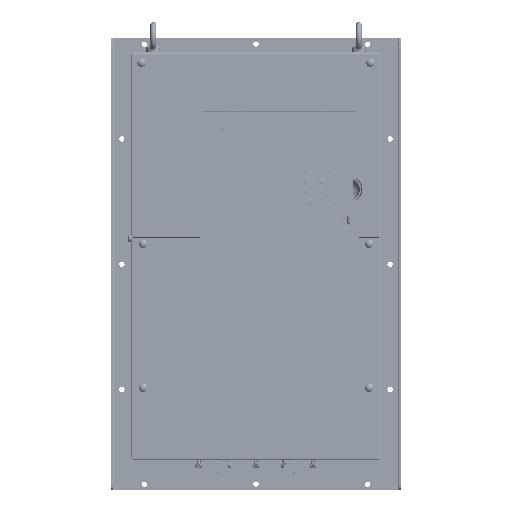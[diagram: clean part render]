
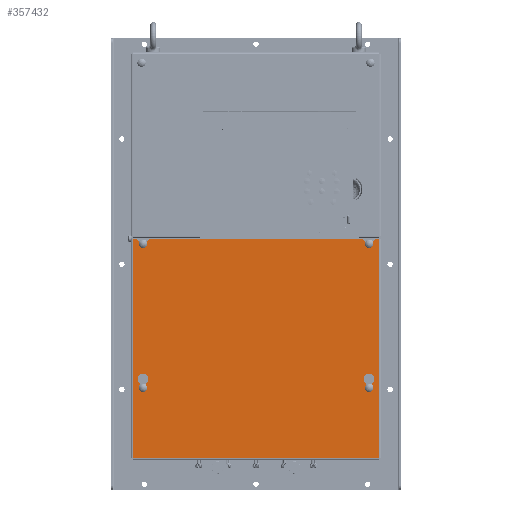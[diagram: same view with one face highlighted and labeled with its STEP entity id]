
A CAD part, top view. The second image highlights one B-rep face of the part: STEP entity #357432.
In plain terms, the highlighted planar face has unit normal (0, 0, 1) as drawn and (0, 1, 0) by its records, which use the part's own axes.
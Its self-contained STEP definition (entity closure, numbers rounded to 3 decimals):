
#356525=CARTESIAN_POINT('',(126.4,0.,-79.5));
#356526=DIRECTION('',(0.,1.,0.));
#356527=DIRECTION('',(-1.,0.,0.));
#356528=AXIS2_PLACEMENT_3D('',#356525,#356526,#356527);
#356530=DIRECTION('',(0.,0.,1.));
#356531=VECTOR('',#356530,4.804);
#356532=CARTESIAN_POINT('',(129.4,0.,-84.304));
#356533=LINE('',#356532,#356531);
#356534=CARTESIAN_POINT('',(126.4,0.,-89.5));
#356535=DIRECTION('',(0.,1.,0.));
#356536=DIRECTION('',(0.5,0.,0.866));
#356537=AXIS2_PLACEMENT_3D('',#356534,#356535,#356536);
#356539=DIRECTION('',(0.,0.,-1.));
#356540=VECTOR('',#356539,4.804);
#356541=CARTESIAN_POINT('',(123.4,0.,-79.5));
#356542=LINE('',#356541,#356540);
#356543=CARTESIAN_POINT('',(-126.4,0.,-79.5));
#356544=DIRECTION('',(0.,1.,0.));
#356545=DIRECTION('',(-1.,0.,0.));
#356546=AXIS2_PLACEMENT_3D('',#356543,#356544,#356545);
#356548=DIRECTION('',(0.,0.,1.));
#356549=VECTOR('',#356548,4.804);
#356550=CARTESIAN_POINT('',(-123.4,0.,-84.304));
#356551=LINE('',#356550,#356549);
#356552=CARTESIAN_POINT('',(-126.4,0.,-89.5));
#356553=DIRECTION('',(0.,1.,0.));
#356554=DIRECTION('',(0.5,0.,0.866));
#356555=AXIS2_PLACEMENT_3D('',#356552,#356553,#356554);
#356557=DIRECTION('',(0.,0.,-1.));
#356558=VECTOR('',#356557,4.804);
#356559=CARTESIAN_POINT('',(-129.4,0.,-79.5));
#356560=LINE('',#356559,#356558);
#356561=DIRECTION('',(-0.707,0.,-0.707));
#356562=VECTOR('',#356561,5.657);
#356563=CARTESIAN_POINT('',(123.5,0.,-241.7));
#356564=LINE('',#356563,#356562);
#356565=DIRECTION('',(0.,0.,1.));
#356566=VECTOR('',#356565,1.1);
#356567=CARTESIAN_POINT('',(123.5,0.,-241.7));
#356568=LINE('',#356567,#356566);
#356569=CARTESIAN_POINT('',(126.5,0.,-240.6));
#356570=DIRECTION('',(0.,1.,0.));
#356571=DIRECTION('',(-1.,0.,0.));
#356572=AXIS2_PLACEMENT_3D('',#356569,#356570,#356571);
#356574=DIRECTION('',(0.,0.,1.));
#356575=VECTOR('',#356574,1.1);
#356576=CARTESIAN_POINT('',(129.5,0.,-241.7));
#356577=LINE('',#356576,#356575);
#356578=DIRECTION('',(-0.707,0.,0.707));
#356579=VECTOR('',#356578,5.657);
#356580=CARTESIAN_POINT('',(133.5,0.,-245.7));
#356581=LINE('',#356580,#356579);
#356582=DIRECTION('',(-1.,0.,0.));
#356583=VECTOR('',#356582,4.5);
#356584=CARTESIAN_POINT('',(138.,0.,-245.7));
#356585=LINE('',#356584,#356583);
#356586=DIRECTION('',(-1.,0.,0.));
#356587=VECTOR('',#356586,4.5);
#356588=CARTESIAN_POINT('',(-133.5,0.,-245.7));
#356589=LINE('',#356588,#356587);
#356590=DIRECTION('',(-0.707,0.,-0.707));
#356591=VECTOR('',#356590,5.657);
#356592=CARTESIAN_POINT('',(-129.5,0.,-241.7));
#356593=LINE('',#356592,#356591);
#356594=DIRECTION('',(0.,0.,1.));
#356595=VECTOR('',#356594,1.1);
#356596=CARTESIAN_POINT('',(-129.5,0.,-241.7));
#356597=LINE('',#356596,#356595);
#356598=CARTESIAN_POINT('',(-126.5,0.,-240.6));
#356599=DIRECTION('',(0.,1.,0.));
#356600=DIRECTION('',(-1.,0.,0.));
#356601=AXIS2_PLACEMENT_3D('',#356598,#356599,#356600);
#356603=DIRECTION('',(0.,0.,1.));
#356604=VECTOR('',#356603,1.1);
#356605=CARTESIAN_POINT('',(-123.5,0.,-241.7));
#356606=LINE('',#356605,#356604);
#356607=DIRECTION('',(-0.707,0.,0.707));
#356608=VECTOR('',#356607,5.657);
#356609=CARTESIAN_POINT('',(-119.5,0.,-245.7));
#356610=LINE('',#356609,#356608);
#356611=DIRECTION('',(-1.,0.,0.));
#356612=VECTOR('',#356611,239.);
#356613=CARTESIAN_POINT('',(119.5,0.,-245.7));
#356614=LINE('',#356613,#356612);
#357054=DIRECTION('',(0.,0.,1.));
#357055=VECTOR('',#357054,245.2);
#357056=CARTESIAN_POINT('',(-138.,0.,-245.7));
#357057=LINE('',#357056,#357055);
#357105=DIRECTION('',(1.,0.,0.));
#357106=VECTOR('',#357105,276.);
#357107=CARTESIAN_POINT('',(-138.,0.,-0.5));
#357108=LINE('',#357107,#357106);
#357147=DIRECTION('',(0.,0.,-1.));
#357148=VECTOR('',#357147,245.2);
#357149=CARTESIAN_POINT('',(138.,0.,-0.5));
#357150=LINE('',#357149,#357148);
#357201=CARTESIAN_POINT('',(123.4,0.,-79.5));
#357202=CARTESIAN_POINT('',(129.4,0.,-79.5));
#357203=VERTEX_POINT('',#357201);
#357204=VERTEX_POINT('',#357202);
#357205=CARTESIAN_POINT('',(123.4,0.,-84.304));
#357206=VERTEX_POINT('',#357205);
#357207=CARTESIAN_POINT('',(129.4,0.,-84.304));
#357208=VERTEX_POINT('',#357207);
#357209=CARTESIAN_POINT('',(-129.4,0.,-79.5));
#357210=CARTESIAN_POINT('',(-123.4,0.,-79.5));
#357211=VERTEX_POINT('',#357209);
#357212=VERTEX_POINT('',#357210);
#357213=CARTESIAN_POINT('',(-129.4,0.,-84.304));
#357214=VERTEX_POINT('',#357213);
#357215=CARTESIAN_POINT('',(-123.4,0.,-84.304));
#357216=VERTEX_POINT('',#357215);
#357233=CARTESIAN_POINT('',(123.5,0.,-240.6));
#357234=CARTESIAN_POINT('',(129.5,0.,-240.6));
#357235=VERTEX_POINT('',#357233);
#357236=VERTEX_POINT('',#357234);
#357237=CARTESIAN_POINT('',(-129.5,0.,-240.6));
#357238=CARTESIAN_POINT('',(-123.5,0.,-240.6));
#357239=VERTEX_POINT('',#357237);
#357240=VERTEX_POINT('',#357238);
#357249=CARTESIAN_POINT('',(123.5,0.,-241.7));
#357250=CARTESIAN_POINT('',(119.5,0.,-245.7));
#357251=VERTEX_POINT('',#357249);
#357252=VERTEX_POINT('',#357250);
#357257=CARTESIAN_POINT('',(133.5,0.,-245.7));
#357258=CARTESIAN_POINT('',(129.5,0.,-241.7));
#357259=VERTEX_POINT('',#357257);
#357260=VERTEX_POINT('',#357258);
#357265=CARTESIAN_POINT('',(-119.5,0.,-245.7));
#357266=CARTESIAN_POINT('',(-123.5,0.,-241.7));
#357267=VERTEX_POINT('',#357265);
#357268=VERTEX_POINT('',#357266);
#357273=CARTESIAN_POINT('',(-129.5,0.,-241.7));
#357274=CARTESIAN_POINT('',(-133.5,0.,-245.7));
#357275=VERTEX_POINT('',#357273);
#357276=VERTEX_POINT('',#357274);
#357281=CARTESIAN_POINT('',(138.,0.,-245.7));
#357282=VERTEX_POINT('',#357281);
#357283=CARTESIAN_POINT('',(-138.,0.,-245.7));
#357284=VERTEX_POINT('',#357283);
#357303=CARTESIAN_POINT('',(138.,0.,-0.5));
#357304=VERTEX_POINT('',#357303);
#357319=CARTESIAN_POINT('',(-138.,0.,-0.5));
#357320=VERTEX_POINT('',#357319);
#357373=CARTESIAN_POINT('',(0.,0.,0.));
#357374=DIRECTION('',(0.,1.,0.));
#357375=DIRECTION('',(1.,0.,0.));
#357376=AXIS2_PLACEMENT_3D('',#357373,#357374,#357375);
#357377=PLANE('',#357376);
#357379=ORIENTED_EDGE('',*,*,#357378,.F.);
#357381=ORIENTED_EDGE('',*,*,#357380,.T.);
#357383=ORIENTED_EDGE('',*,*,#357382,.T.);
#357385=ORIENTED_EDGE('',*,*,#357384,.F.);
#357387=ORIENTED_EDGE('',*,*,#357386,.F.);
#357389=ORIENTED_EDGE('',*,*,#357388,.F.);
#357391=ORIENTED_EDGE('',*,*,#357390,.F.);
#357393=ORIENTED_EDGE('',*,*,#357392,.F.);
#357395=ORIENTED_EDGE('',*,*,#357394,.F.);
#357397=ORIENTED_EDGE('',*,*,#357396,.F.);
#357399=ORIENTED_EDGE('',*,*,#357398,.F.);
#357401=ORIENTED_EDGE('',*,*,#357400,.T.);
#357403=ORIENTED_EDGE('',*,*,#357402,.T.);
#357405=ORIENTED_EDGE('',*,*,#357404,.F.);
#357407=ORIENTED_EDGE('',*,*,#357406,.F.);
#357409=ORIENTED_EDGE('',*,*,#357408,.F.);
#357410=EDGE_LOOP('',(#357379,#357381,#357383,#357385,#357387,#357389,#357391,
#357393,#357395,#357397,#357399,#357401,#357403,#357405,#357407,#357409));
#357411=FACE_OUTER_BOUND('',#357410,.F.);
#357413=ORIENTED_EDGE('',*,*,#357412,.T.);
#357415=ORIENTED_EDGE('',*,*,#357414,.F.);
#357417=ORIENTED_EDGE('',*,*,#357416,.T.);
#357419=ORIENTED_EDGE('',*,*,#357418,.F.);
#357420=EDGE_LOOP('',(#357413,#357415,#357417,#357419));
#357421=FACE_BOUND('',#357420,.F.);
#357423=ORIENTED_EDGE('',*,*,#357422,.T.);
#357425=ORIENTED_EDGE('',*,*,#357424,.F.);
#357427=ORIENTED_EDGE('',*,*,#357426,.T.);
#357429=ORIENTED_EDGE('',*,*,#357428,.F.);
#357430=EDGE_LOOP('',(#357423,#357425,#357427,#357429));
#357431=FACE_BOUND('',#357430,.F.);
#357432=ADVANCED_FACE('',(#357411,#357421,#357431),#357377,.T.);
#356529=CIRCLE('',#356528,3.);
#356538=CIRCLE('',#356537,6.);
#356547=CIRCLE('',#356546,3.);
#356556=CIRCLE('',#356555,6.);
#356573=CIRCLE('',#356572,3.);
#356602=CIRCLE('',#356601,3.);
#357378=EDGE_CURVE('',#357251,#357252,#356564,.T.);
#357380=EDGE_CURVE('',#357251,#357235,#356568,.T.);
#357382=EDGE_CURVE('',#357235,#357236,#356573,.T.);
#357384=EDGE_CURVE('',#357260,#357236,#356577,.T.);
#357386=EDGE_CURVE('',#357259,#357260,#356581,.T.);
#357388=EDGE_CURVE('',#357282,#357259,#356585,.T.);
#357390=EDGE_CURVE('',#357304,#357282,#357150,.T.);
#357392=EDGE_CURVE('',#357320,#357304,#357108,.T.);
#357394=EDGE_CURVE('',#357284,#357320,#357057,.T.);
#357396=EDGE_CURVE('',#357276,#357284,#356589,.T.);
#357398=EDGE_CURVE('',#357275,#357276,#356593,.T.);
#357400=EDGE_CURVE('',#357275,#357239,#356597,.T.);
#357402=EDGE_CURVE('',#357239,#357240,#356602,.T.);
#357404=EDGE_CURVE('',#357268,#357240,#356606,.T.);
#357406=EDGE_CURVE('',#357267,#357268,#356610,.T.);
#357408=EDGE_CURVE('',#357252,#357267,#356614,.T.);
#357412=EDGE_CURVE('',#357203,#357204,#356529,.T.);
#357414=EDGE_CURVE('',#357208,#357204,#356533,.T.);
#357416=EDGE_CURVE('',#357208,#357206,#356538,.T.);
#357418=EDGE_CURVE('',#357203,#357206,#356542,.T.);
#357422=EDGE_CURVE('',#357211,#357212,#356547,.T.);
#357424=EDGE_CURVE('',#357216,#357212,#356551,.T.);
#357426=EDGE_CURVE('',#357216,#357214,#356556,.T.);
#357428=EDGE_CURVE('',#357211,#357214,#356560,.T.);
